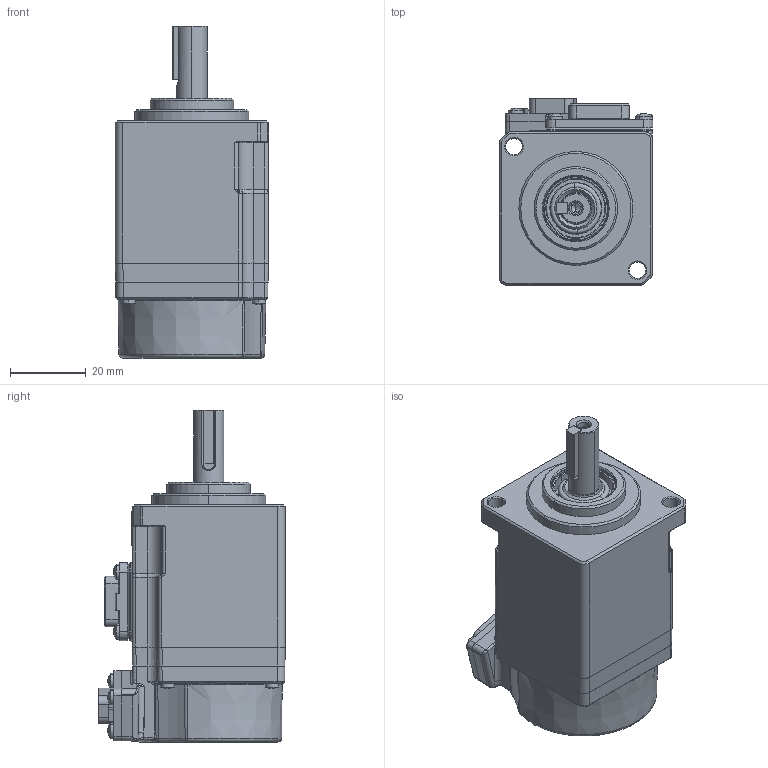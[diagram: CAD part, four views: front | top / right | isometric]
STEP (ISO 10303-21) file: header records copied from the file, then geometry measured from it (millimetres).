
FILE_DESCRIPTION (( 'STEP AP214' ), '1' );
FILE_NAME ('40法兰-50W-带油封无制动器(RSA1-H040AA5B30S).STEP', '2024-09-06T08:28:47', ( '' ), ( '' ), 'SwSTEP 2.0', 'SolidWorks 2020', '' );
FILE_SCHEMA (( 'AUTOMOTIVE_DESIGN' ));
Length unit declared in the file: millimetre
Products named in the file (11): 3114000001_十字槽盘头自挤螺钉_M2x5(GBT6560-2014 锌镍合金 黑色); 40-50W儂褲-衄蚐猾; 40-綴裔; 3112000005_十字槽小盘头螺钉_M2x8(GBT823-2000 锌镍合金 黑色 耐落）; 3231000001_勾板螺丝型6pin连接器插座_GAMC3064_无制动器线; 40法兰-50W-带油封无制动器(RSA1-H040AA5B30S); す瑩_B3x3x14; 3220000003_蚐猾_TC9x17x4(NBR); 苤萇儂晤鎢傷赽; 40-8粣噤25粣扥; 40-梓袧綴傷裔
Assembly tree (20 placements, depth 2):
  40法兰-50W-带油封无制动器(RSA1-H040AA5B30S)
    40-50W儂褲-衄蚐猾
    3114000001_十字槽盘头自挤螺钉_M2x5(GBT6560-2014 锌镍合金 黑色)  x8
    3220000003_蚐猾_TC9x17x4(NBR)
    3231000001_勾板螺丝型6pin连接器插座_GAMC3064_无制动器线
    40-8粣噤25粣扥
    40-綴裔
    苤萇儂晤鎢傷赽
    す瑩_B3x3x14
    3112000005_十字槽小盘头螺钉_M2x8(GBT823-2000 锌镍合金 黑色 耐落）  x4
    40-梓袧綴傷裔
Bounding box: 40.4 x 49.1 x 87.4 mm (x, y, z)
Volume: 75681.5 mm3; surface area: 36601.7 mm2
Topology: 23 solids, 23 shells, 3025 faces, 8081 edges, 5176 vertices
Faces by surface type: plane 1513, cylinder 632, bspline 436, cone 260, torus 154, sphere 30
Entity records: 110235 total; most frequent: CARTESIAN_POINT 35405, ORIENTED_EDGE 14308, DIRECTION 11930, EDGE_CURVE 7154, VERTEX_POINT 4588, LINE 4282, VECTOR 4282, AXIS2_PLACEMENT_3D 3824
